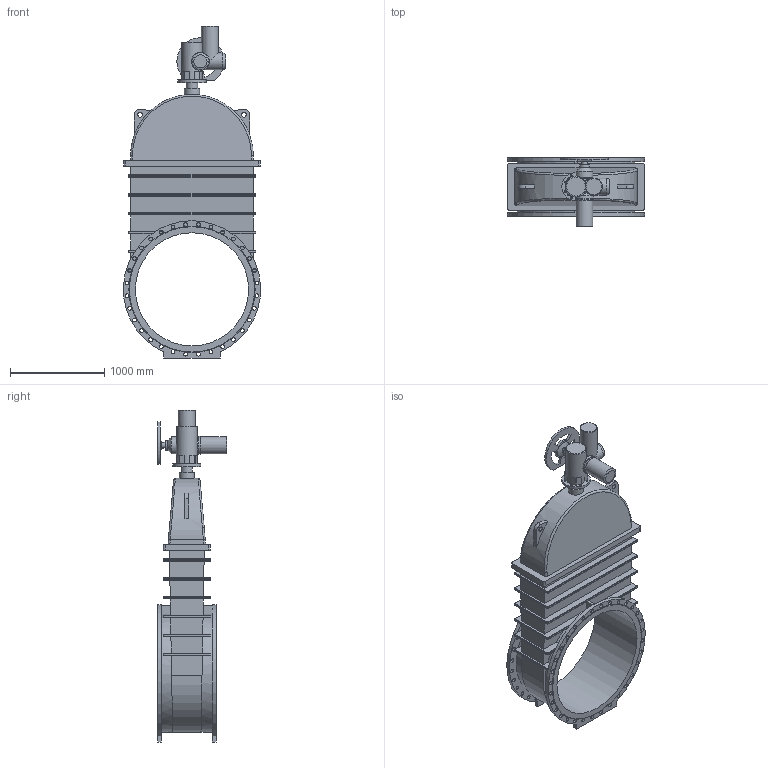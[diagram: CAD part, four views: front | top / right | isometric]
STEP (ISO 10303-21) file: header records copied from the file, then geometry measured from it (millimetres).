
FILE_DESCRIPTION(('STEP AP203'), '1');
FILE_NAME('青溻桄赅 47GVA.Z DN1200 PN10 +MT903.A100', '', ('UNSPECIFIED'), ('UNSPECIFIED'), 'ASCON STEP Converter 1.6', 'ASCON Math Kernel', '');
FILE_SCHEMA(('CONFIG_CONTROL_DESIGN'));
Length unit declared in the file: millimetre
Bounding box: 1453.67 x 740 x 3518.5 mm (x, y, z)
Volume: 862669186.5 mm3; surface area: 15779627.5 mm2
Topology: 2 solids, 2 shells, 458 faces, 1165 edges, 740 vertices
Faces by surface type: cylinder 223, plane 173, bspline 50, cone 11, torus 1
Full cylindrical faces by diameter (mm): 17.5 x4, 18 x8, 20 x4, 40 x64, 50 x3, 60 x1, 100 x1, 120 x1, 130 x1, 140 x1, 160 x1, 180 x4, 187 x1, 191 x1, 200 x1, 220 x1, 300 x1, 1200 x1
Entity records: 23378 total; most frequent: CARTESIAN_POINT 9071, ORIENTED_EDGE 2108, DIRECTION 2065, EDGE_CURVE 1054, AXIS2_PLACEMENT_3D 787, EDGE_LOOP 761, VERTEX_POINT 739, FACE_BOUND 551
